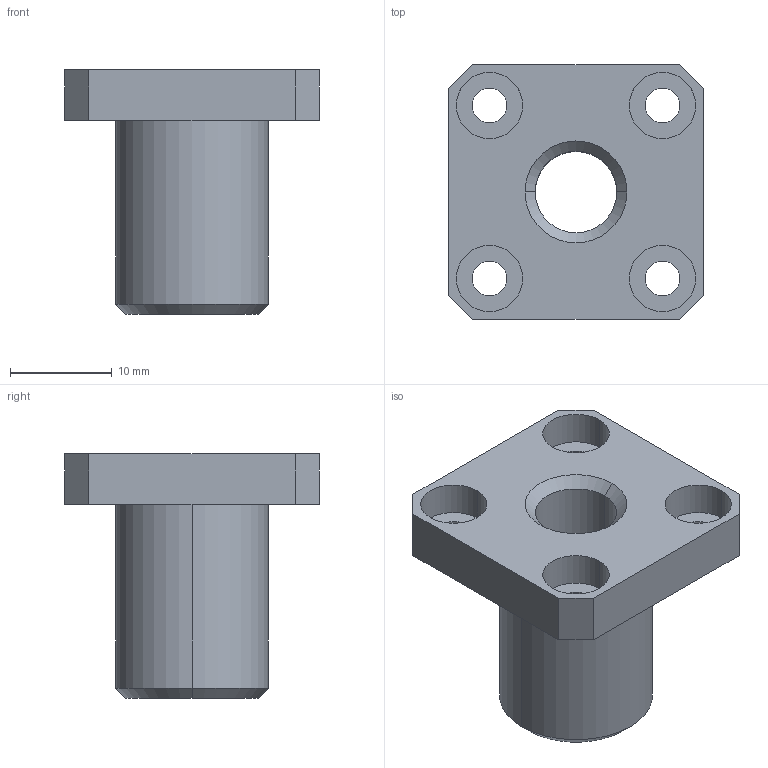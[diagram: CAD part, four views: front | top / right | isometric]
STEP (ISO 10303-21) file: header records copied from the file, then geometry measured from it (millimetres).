
FILE_DESCRIPTION (( 'STEP AP214' ), '1' );
FILE_NAME ('2.7045 Lineaarilaakeri LMK8UU.STEP', '2024-06-24T10:23:13', ( '' ), ( '' ), 'SwSTEP 2.0', 'SolidWorks 2024', '' );
FILE_SCHEMA (( 'AUTOMOTIVE_DESIGN' ));
Length unit declared in the file: millimetre
Products named in the file (1): 2.7045 Lineaarilaakeri LMK8UU
Bounding box: 25 x 25 x 24 mm (x, y, z)
Volume: 4684 mm3; surface area: 3324.9 mm2
Topology: 1 solids, 1 shells, 39 faces, 92 edges, 60 vertices
Faces by surface type: cylinder 20, plane 15, cone 4
Entity records: 1181 total; most frequent: DIRECTION 216, CARTESIAN_POINT 192, ORIENTED_EDGE 184, EDGE_CURVE 92, AXIS2_PLACEMENT_3D 84, VERTEX_POINT 60, EDGE_LOOP 54, VECTOR 48
